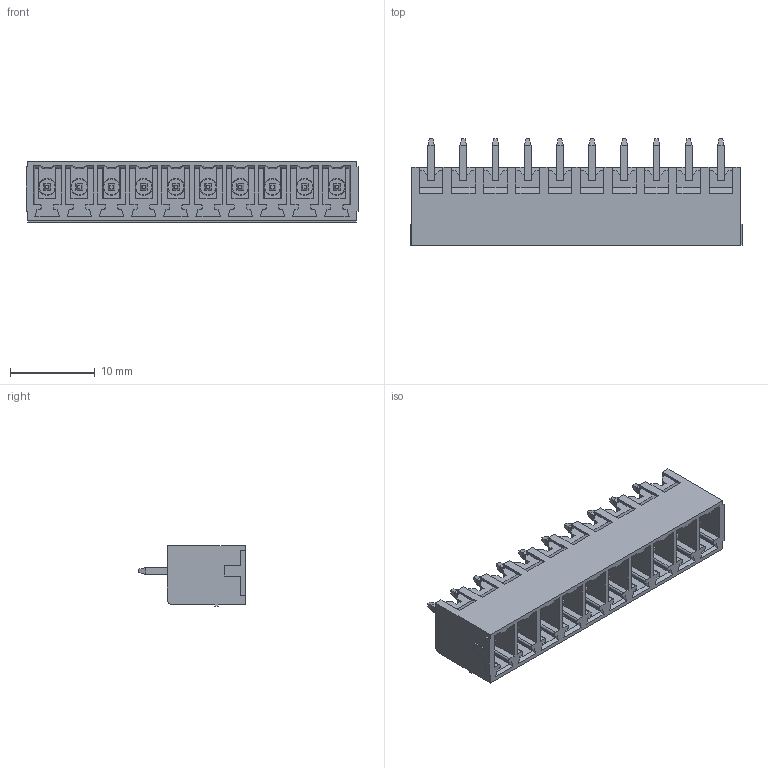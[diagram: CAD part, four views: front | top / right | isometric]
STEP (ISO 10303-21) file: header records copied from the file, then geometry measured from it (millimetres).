
FILE_DESCRIPTION(('FreeCAD Model'),'2;1');
FILE_NAME('Open CASCADE Shape Model','2023-05-24T16:00:42',('Author'),( ''),'Open CASCADE STEP processor 7.6','FreeCAD','Unknown');
FILE_SCHEMA(('AUTOMOTIVE_DESIGN { 1 0 10303 214 1 1 1 1 }'));
Length unit declared in the file: millimetre
Products named in the file (1): BR7MC2-10
Bounding box: 39.29 x 12.6 x 7.2 mm (x, y, z)
Volume: 1185.5 mm3; surface area: 3577.6 mm2
Topology: 1 solids, 1 shells, 817 faces, 2175 edges, 1380 vertices
Faces by surface type: plane 716, cylinder 51, cone 30, sphere 20
Entity records: 54025 total; most frequent: CARTESIAN_POINT 10317, DIRECTION 8154, LINE 6021, VECTOR 6021, ORIENTED_EDGE 4310, PCURVE 4310, DEFINITIONAL_REPRESENTATION 4310, EDGE_CURVE 2155
